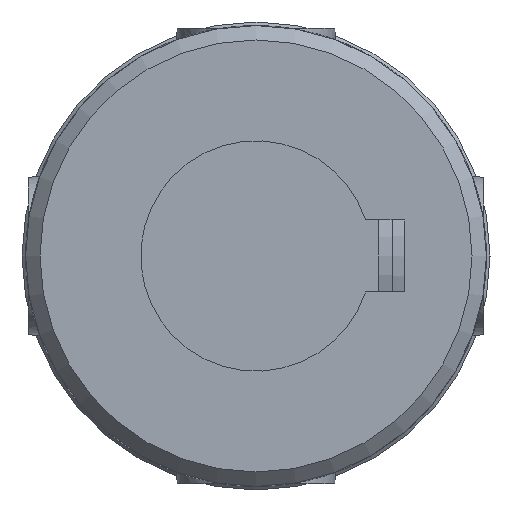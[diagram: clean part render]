
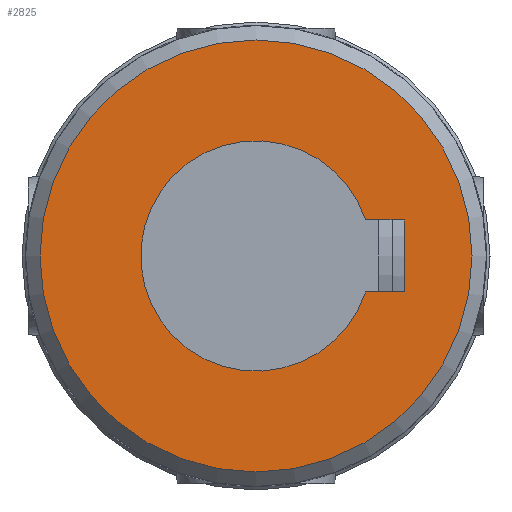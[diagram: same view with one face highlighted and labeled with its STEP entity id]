
A CAD part, left-side view. The second image highlights one B-rep face of the part: STEP entity #2825.
In plain terms, the highlighted planar face has unit normal (-1, 0, 0) as drawn and (0, -1, 0) by its records, which use the part's own axes.
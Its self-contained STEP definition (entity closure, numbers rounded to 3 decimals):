
#185=FACE_BOUND('',#640,.T.);
#275=PLANE('',#3124);
#429=FACE_OUTER_BOUND('',#639,.T.);
#639=EDGE_LOOP('',(#2453));
#640=EDGE_LOOP('',(#2454,#2455,#2456,#2457));
#820=LINE('',#5178,#973);
#825=LINE('',#5195,#978);
#826=LINE('',#5204,#979);
#973=VECTOR('',#3811,2.701);
#978=VECTOR('',#3822,2.701);
#979=VECTOR('',#3825,5.);
#1114=CIRCLE('',#3112,8.);
#1119=CIRCLE('',#3122,15.);
#1353=VERTEX_POINT('',#5167);
#1354=VERTEX_POINT('',#5169);
#1356=VERTEX_POINT('',#5177);
#1362=VERTEX_POINT('',#5193);
#1364=VERTEX_POINT('',#5210);
#1719=EDGE_CURVE('',#1354,#1353,#1114,.T.);
#1722=EDGE_CURVE('',#1356,#1354,#820,.T.);
#1730=EDGE_CURVE('',#1353,#1362,#825,.T.);
#1732=EDGE_CURVE('',#1362,#1356,#826,.T.);
#1735=EDGE_CURVE('',#1364,#1364,#1119,.T.);
#2453=ORIENTED_EDGE('',*,*,#1735,.F.);
#2454=ORIENTED_EDGE('',*,*,#1730,.T.);
#2455=ORIENTED_EDGE('',*,*,#1732,.T.);
#2456=ORIENTED_EDGE('',*,*,#1722,.T.);
#2457=ORIENTED_EDGE('',*,*,#1719,.T.);
#2825=ADVANCED_FACE('',(#429,#185),#275,.F.);
#3112=AXIS2_PLACEMENT_3D('',#5170,#3806,#3807);
#3122=AXIS2_PLACEMENT_3D('',#5211,#3834,#3835);
#3124=AXIS2_PLACEMENT_3D('',#5423,#3842,#3843);
#3806=DIRECTION('center_axis',(0.,1.,0.));
#3807=DIRECTION('ref_axis',(-0.313,0.,0.95));
#3811=DIRECTION('',(0.,0.,1.));
#3822=DIRECTION('',(0.,0.,-1.));
#3825=DIRECTION('',(-1.,0.,0.));
#3834=DIRECTION('center_axis',(0.,1.,0.));
#3835=DIRECTION('ref_axis',(1.,0.,0.));
#3842=DIRECTION('center_axis',(0.,1.,0.));
#3843=DIRECTION('ref_axis',(0.,0.,1.));
#5167=CARTESIAN_POINT('',(2.5,-42.,-7.599));
#5169=CARTESIAN_POINT('',(-2.5,-42.,-7.599));
#5170=CARTESIAN_POINT('Origin',(0.,-42.,0.));
#5177=CARTESIAN_POINT('',(-2.5,-42.,-10.3));
#5178=CARTESIAN_POINT('',(-2.5,-42.,-5.15));
#5193=CARTESIAN_POINT('',(2.5,-42.,-10.3));
#5195=CARTESIAN_POINT('',(2.5,-42.,-3.8));
#5204=CARTESIAN_POINT('',(1.25,-42.,-10.3));
#5210=CARTESIAN_POINT('',(-15.,-42.,0.));
#5211=CARTESIAN_POINT('Origin',(0.,-42.,0.));
#5423=CARTESIAN_POINT('Origin',(0.,-42.,0.));
